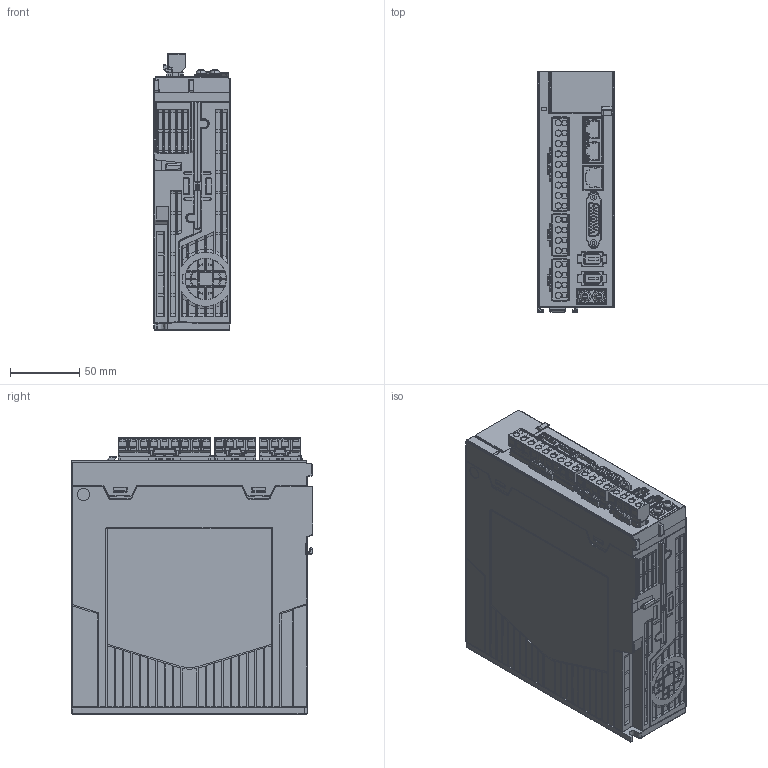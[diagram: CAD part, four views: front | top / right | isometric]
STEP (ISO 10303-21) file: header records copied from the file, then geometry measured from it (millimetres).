
FILE_DESCRIPTION((''),'2;1');
FILE_NAME('SV660NDS2R8I_ASM_7_ASM','2023-02-08T',('10009991'),(''),'CREO PARAMETRIC BY PTC INC, 2015290','CREO PARAMETRIC BY PTC INC, 2015290','');
FILE_SCHEMA(('AP203_CONFIGURATION_CONTROLLED_3D_DESIGN_OF_MECHANICAL_PARTS_AND_ASSEMBLIES_MIM_LF { 1 0 10303 403 2 1 2 }'));
Products named in the file (4): SV660NDS2R8I_6; 9EDGK-7_5-09P_20180409_2; 9EDGK-7_5-04P_20180409_2; SV660NDS2R8I_ASM_7_ASM
Assembly tree (4 placements, depth 2):
  SV660NDS2R8I_ASM_7_ASM
    SV660NDS2R8I_6
    9EDGK-7_5-09P_20180409_2
    9EDGK-7_5-04P_20180409_2  x2
Bounding box: 55.1 x 174.3 x 199.5 mm (x, y, z)
Volume: 1709124.1 mm3; surface area: 143004.9 mm2
Topology: 4 solids, 9 shells, 7109 faces, 18935 edges, 11985 vertices
Faces by surface type: plane 4692, cylinder 1612, cone 247, bspline 234, torus 141, sphere 98, extrusion 85
Entity records: 232866 total; most frequent: CARTESIAN_POINT 57065, ORIENTED_EDGE 34106, DIRECTION 30251, EDGE_CURVE 17053, VECTOR 12751, LINE 12666, VERTEX_POINT 10844, AXIS2_PLACEMENT_3D 8750
